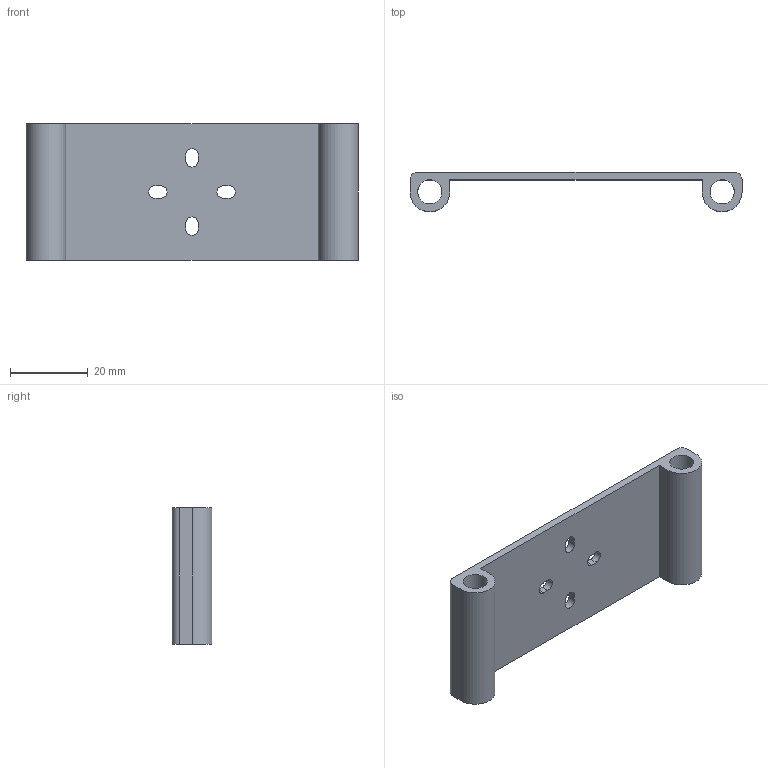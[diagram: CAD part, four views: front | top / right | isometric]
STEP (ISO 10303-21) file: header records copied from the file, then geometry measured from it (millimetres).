
FILE_DESCRIPTION(/* description */ ('STEP AP242','CAx-IF Rec.Pracs.---Representation and Presentation of Product Manufacturing Information (PMI)---4.0---2014-10-13','CAx-IF Rec.Pracs.---3D Tessellated Geometry---0.4---2014-09-14','2;1'),/* implementation_level */ '2;1');
FILE_NAME(/* name */ '679bad1d5e1bcc04624b8f57',/* time_stamp */ '2025-01-30T16:47:26Z',/* author */ (''),/* organization */ (''),/* preprocessor_version */ 'ST-DEVELOPER v20',/* originating_system */ 'ONSHAPE BY PTC INC, 1.192',/* authorisation */ ' ');
FILE_SCHEMA (('AP242_MANAGED_MODEL_BASED_3D_ENGINEERING_MIM_LF { 1 0 10303 442 1 1 4 }'));
Length unit declared in the file: metre
Products named in the file (1): flancs_pla
Bounding box: 85.2 x 10.2 x 35 mm (x, y, z)
Volume: 8761.2 mm3; surface area: 8757.1 mm2
Topology: 1 solids, 1 shells, 30 faces, 84 edges, 56 vertices
Faces by surface type: plane 16, cylinder 14
Full cylindrical faces by diameter (mm): 6.2 x2
Entity records: 1012 total; most frequent: DIRECTION 172, CARTESIAN_POINT 169, ORIENTED_EDGE 164, EDGE_CURVE 82, AXIS2_PLACEMENT_3D 59, VERTEX_POINT 56, LINE 54, VECTOR 54
